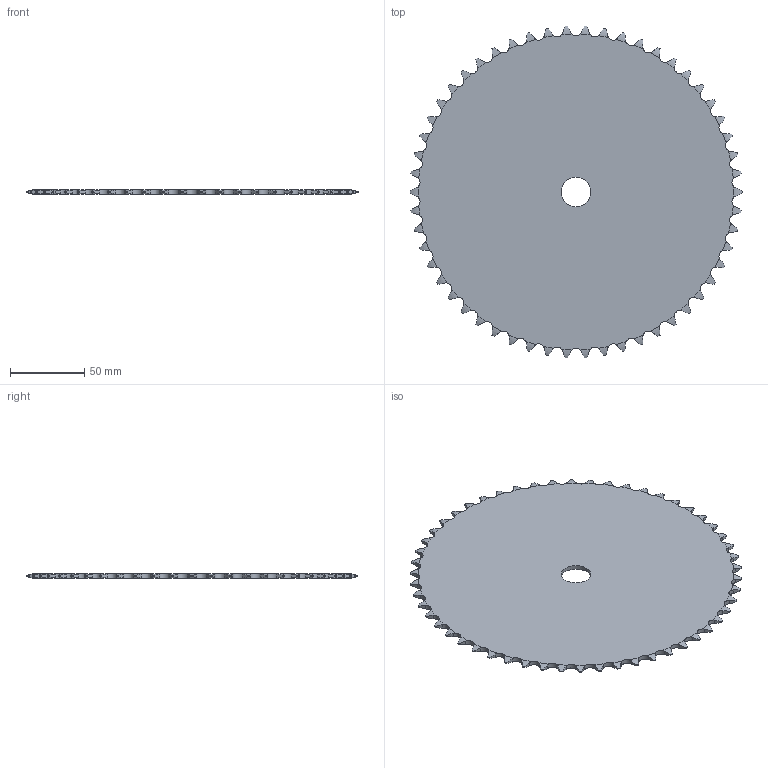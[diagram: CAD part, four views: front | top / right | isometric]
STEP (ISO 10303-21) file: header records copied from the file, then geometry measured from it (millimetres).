
FILE_DESCRIPTION((''),'2;1');
FILE_NAME('500-201-0054_PRT','2021-02-12T',('Brieden'),('Brieden'),'PRO/ENGINEER BY PARAMETRIC TECHNOLOGY CORPORATION, 2010160','PRO/ENGINEER BY PARAMETRIC TECHNOLOGY CORPORATION, 2010160','');
FILE_SCHEMA(('AUTOMOTIVE_DESIGN { 1 0 10303 214 1 1 1 1 }'));
Length unit declared in the file: millimetre
Products named in the file (1): 500-201-0054_PRT
Bounding box: 223.75 x 223.45 x 3 mm (x, y, z)
Volume: 108044.8 mm3; surface area: 75203.2 mm2
Topology: 1 solids, 1 shells, 328 faces, 978 edges, 652 vertices
Faces by surface type: cylinder 218, torus 108, plane 2
Entity records: 16064 total; most frequent: CARTESIAN_POINT 4771, ORIENTED_EDGE 1956, DIRECTION 1530, PRESENTATION_STYLE_ASSIGNMENT 979, STYLED_ITEM 979, CURVE_STYLE 978, EDGE_CURVE 978, AXIS2_PLACEMENT_3D 656
